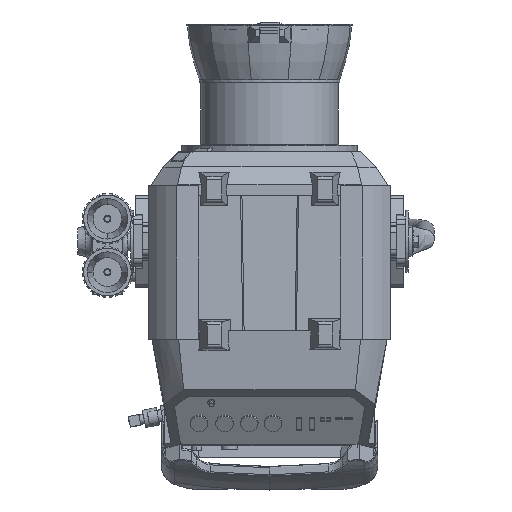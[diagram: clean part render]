
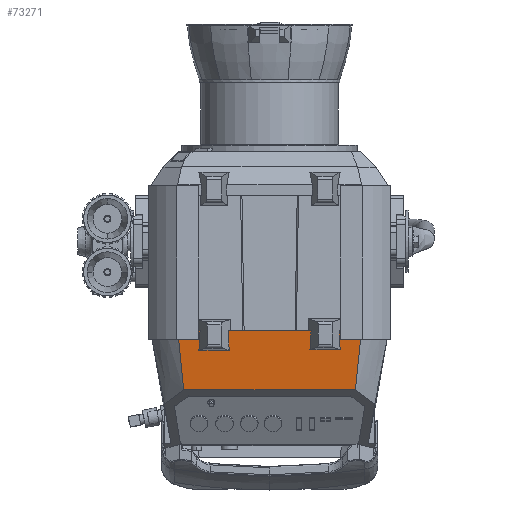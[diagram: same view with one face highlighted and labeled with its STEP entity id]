
A CAD part, front view. The second image highlights one B-rep face of the part: STEP entity #73271.
In plain terms, the highlighted planar face has unit normal (0, -0.994, -0.106).
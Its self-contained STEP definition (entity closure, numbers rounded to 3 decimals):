
#901 = DIRECTION ( 'NONE',  ( -1., 0., 0. ) ) ;
#1032 = EDGE_CURVE ( 'NONE', #47975, #86851, #28076, .T. ) ;
#1175 = LINE ( 'NONE', #34639, #56927 ) ;
#1481 = VERTEX_POINT ( 'NONE', #59729 ) ;
#1892 = ORIENTED_EDGE ( 'NONE', *, *, #50041, .F. ) ;
#1959 = CARTESIAN_POINT ( 'NONE',  ( 100.247, -137.048, -195.215 ) ) ;
#2174 = VECTOR ( 'NONE', #65344, 1000. ) ;
#2266 = LINE ( 'NONE', #72654, #36955 ) ;
#3309 = LINE ( 'NONE', #56030, #77935 ) ;
#3787 = CARTESIAN_POINT ( 'NONE',  ( -80.501, -140.238, -165.171 ) ) ;
#4239 = CARTESIAN_POINT ( 'NONE',  ( 103.261, -140.238, -165.172 ) ) ;
#6103 = ORIENTED_EDGE ( 'NONE', *, *, #72136, .F. ) ;
#8128 = DIRECTION ( 'NONE',  ( 0.06, -0.105, 0.993 ) ) ;
#8320 = DIRECTION ( 'NONE',  ( 1., 0., 0. ) ) ;
#9716 = VECTOR ( 'NONE', #65089, 1000. ) ;
#10154 = CARTESIAN_POINT ( 'NONE',  ( 47.141, -141.248, -155.66 ) ) ;
#11284 = EDGE_CURVE ( 'NONE', #1481, #64808, #53993, .T. ) ;
#13379 = VECTOR ( 'NONE', #53686, 1000. ) ;
#13442 = ORIENTED_EDGE ( 'NONE', *, *, #1032, .T. ) ;
#13594 = VECTOR ( 'NONE', #35698, 1000. ) ;
#13750 = VERTEX_POINT ( 'NONE', #60739 ) ;
#13892 = EDGE_CURVE ( 'NONE', #55362, #53485, #31100, .T. ) ;
#14049 = VECTOR ( 'NONE', #8320, 1000. ) ;
#14650 = EDGE_CURVE ( 'NONE', #29475, #29141, #39277, .T. ) ;
#15102 = CARTESIAN_POINT ( 'NONE',  ( 104.214, -138.984, -176.982 ) ) ;
#15931 = LINE ( 'NONE', #17688, #2174 ) ;
#17034 = VECTOR ( 'NONE', #37124, 1000. ) ;
#17265 = VERTEX_POINT ( 'NONE', #24862 ) ;
#17688 = CARTESIAN_POINT ( 'NONE',  ( 78.952, -141.086, -157.182 ) ) ;
#18040 = CARTESIAN_POINT ( 'NONE',  ( -46.587, -140.283, -164.746 ) ) ;
#19392 = CARTESIAN_POINT ( 'NONE',  ( -80.189, -138.93, -177.492 ) ) ;
#19735 = CARTESIAN_POINT ( 'NONE',  ( 80.501, -141.248, -155.662 ) ) ;
#19779 = VERTEX_POINT ( 'NONE', #85275 ) ;
#21428 = VECTOR ( 'NONE', #76216, 1000. ) ;
#21527 = CARTESIAN_POINT ( 'NONE',  ( 104.214, -140.238, -165.172 ) ) ;
#22001 = AXIS2_PLACEMENT_3D ( 'NONE', #78571, #31523, #71858 ) ;
#22724 = ORIENTED_EDGE ( 'NONE', *, *, #39609, .T. ) ;
#24862 = CARTESIAN_POINT ( 'NONE',  ( 80.501, -140.238, -165.171 ) ) ;
#25859 = VECTOR ( 'NONE', #62212, 1000. ) ;
#26287 = EDGE_CURVE ( 'NONE', #1481, #19779, #27543, .T. ) ;
#27182 = VERTEX_POINT ( 'NONE', #68203 ) ;
#27543 = LINE ( 'NONE', #18040, #9716 ) ;
#28076 = LINE ( 'NONE', #60773, #13379 ) ;
#29141 = VERTEX_POINT ( 'NONE', #38468 ) ;
#29475 = VERTEX_POINT ( 'NONE', #3787 ) ;
#29716 = CARTESIAN_POINT ( 'NONE',  ( -80.501, -141.25, -155.643 ) ) ;
#29786 = LINE ( 'NONE', #21527, #14049 ) ;
#30912 = ORIENTED_EDGE ( 'NONE', *, *, #64849, .T. ) ;
#31100 = LINE ( 'NONE', #15102, #25859 ) ;
#31523 = DIRECTION ( 'NONE',  ( 0., -0.994, -0.106 ) ) ;
#33229 = VECTOR ( 'NONE', #50882, 1000. ) ;
#33806 = LINE ( 'NONE', #19735, #49657 ) ;
#34259 = VERTEX_POINT ( 'NONE', #56255 ) ;
#34639 = CARTESIAN_POINT ( 'NONE',  ( 0., -141.248, -155.66 ) ) ;
#35410 = CARTESIAN_POINT ( 'NONE',  ( -78.189, -142.415, -144.67 ) ) ;
#35698 = DIRECTION ( 'NONE',  ( 0.06, -0.105, 0.993 ) ) ;
#36955 = VECTOR ( 'NONE', #45869, 1000. ) ;
#37124 = DIRECTION ( 'NONE',  ( -0.099, 0.105, -0.99 ) ) ;
#37722 = ORIENTED_EDGE ( 'NONE', *, *, #13892, .T. ) ;
#38468 = CARTESIAN_POINT ( 'NONE',  ( -80.501, -141.248, -155.66 ) ) ;
#39277 = LINE ( 'NONE', #29716, #21428 ) ;
#39609 = EDGE_CURVE ( 'NONE', #53485, #43356, #47239, .T. ) ;
#40417 = ORIENTED_EDGE ( 'NONE', *, *, #46984, .T. ) ;
#41866 = LINE ( 'NONE', #35410, #79737 ) ;
#43356 = VERTEX_POINT ( 'NONE', #10154 ) ;
#44453 = EDGE_CURVE ( 'NONE', #13750, #47975, #66994, .T. ) ;
#45869 = DIRECTION ( 'NONE',  ( -1., 0., 0. ) ) ;
#46766 = CARTESIAN_POINT ( 'NONE',  ( -97.483, -134.122, -222.771 ) ) ;
#46984 = EDGE_CURVE ( 'NONE', #60413, #29141, #51143, .T. ) ;
#47239 = LINE ( 'NONE', #82463, #13594 ) ;
#47975 = VERTEX_POINT ( 'NONE', #46766 ) ;
#49657 = VECTOR ( 'NONE', #52676, 1000. ) ;
#50041 = EDGE_CURVE ( 'NONE', #17265, #84466, #29786, .T. ) ;
#50608 = EDGE_LOOP ( 'NONE', ( #6103, #72303, #72598, #37722, #22724, #30912, #62001, #82470, #79766, #40417, #70616, #53204, #68096, #13442, #66434, #1892 ) ) ;
#50882 = DIRECTION ( 'NONE',  ( 0.099, 0.105, -0.99 ) ) ;
#51143 = LINE ( 'NONE', #85433, #53214 ) ;
#52237 = DIRECTION ( 'NONE',  ( -1., 0., 0. ) ) ;
#52676 = DIRECTION ( 'NONE',  ( 0., 0.106, -0.994 ) ) ;
#53204 = ORIENTED_EDGE ( 'NONE', *, *, #65020, .F. ) ;
#53214 = VECTOR ( 'NONE', #52237, 1000. ) ;
#53485 = VERTEX_POINT ( 'NONE', #74563 ) ;
#53686 = DIRECTION ( 'NONE',  ( 1., 0., 0. ) ) ;
#53993 = LINE ( 'NONE', #57203, #64589 ) ;
#55362 = VERTEX_POINT ( 'NONE', #62604 ) ;
#56030 = CARTESIAN_POINT ( 'NONE',  ( 104.215, -140.239, -165.167 ) ) ;
#56255 = CARTESIAN_POINT ( 'NONE',  ( 80.501, -141.248, -155.66 ) ) ;
#56579 = PLANE ( 'NONE',  #22001 ) ;
#56927 = VECTOR ( 'NONE', #901, 1000. ) ;
#57203 = CARTESIAN_POINT ( 'NONE',  ( 104.214, -138.93, -177.492 ) ) ;
#59729 = CARTESIAN_POINT ( 'NONE',  ( -45.811, -138.93, -177.492 ) ) ;
#60413 = VERTEX_POINT ( 'NONE', #84821 ) ;
#60739 = CARTESIAN_POINT ( 'NONE',  ( -103.261, -140.238, -165.172 ) ) ;
#60773 = CARTESIAN_POINT ( 'NONE',  ( 104.214, -134.122, -222.771 ) ) ;
#62001 = ORIENTED_EDGE ( 'NONE', *, *, #26287, .F. ) ;
#62212 = DIRECTION ( 'NONE',  ( -1., 0., 0. ) ) ;
#62604 = CARTESIAN_POINT ( 'NONE',  ( 80.158, -138.984, -176.982 ) ) ;
#63369 = CARTESIAN_POINT ( 'NONE',  ( 97.483, -134.122, -222.771 ) ) ;
#64589 = VECTOR ( 'NONE', #78055, 1000. ) ;
#64808 = VERTEX_POINT ( 'NONE', #19392 ) ;
#64849 = EDGE_CURVE ( 'NONE', #43356, #19779, #2266, .T. ) ;
#65020 = EDGE_CURVE ( 'NONE', #13750, #29475, #3309, .T. ) ;
#65089 = DIRECTION ( 'NONE',  ( -0.06, -0.105, 0.993 ) ) ;
#65344 = DIRECTION ( 'NONE',  ( -0.06, -0.105, 0.993 ) ) ;
#66434 = ORIENTED_EDGE ( 'NONE', *, *, #75982, .F. ) ;
#66501 = LINE ( 'NONE', #1959, #17034 ) ;
#66994 = LINE ( 'NONE', #84583, #33229 ) ;
#68096 = ORIENTED_EDGE ( 'NONE', *, *, #44453, .T. ) ;
#68203 = CARTESIAN_POINT ( 'NONE',  ( 78.859, -141.248, -155.66 ) ) ;
#70616 = ORIENTED_EDGE ( 'NONE', *, *, #14650, .F. ) ;
#71858 = DIRECTION ( 'NONE',  ( -1., 0., 0. ) ) ;
#72136 = EDGE_CURVE ( 'NONE', #34259, #17265, #33806, .T. ) ;
#72303 = ORIENTED_EDGE ( 'NONE', *, *, #83175, .T. ) ;
#72598 = ORIENTED_EDGE ( 'NONE', *, *, #76515, .F. ) ;
#72654 = CARTESIAN_POINT ( 'NONE',  ( 0., -141.248, -155.66 ) ) ;
#73271 = ADVANCED_FACE ( 'NONE', ( #81831 ), #56579, .T. ) ;
#74563 = CARTESIAN_POINT ( 'NONE',  ( 45.842, -138.984, -176.982 ) ) ;
#75982 = EDGE_CURVE ( 'NONE', #84466, #86851, #66501, .T. ) ;
#76216 = DIRECTION ( 'NONE',  ( 0., -0.106, 0.994 ) ) ;
#76515 = EDGE_CURVE ( 'NONE', #55362, #27182, #15931, .T. ) ;
#77935 = VECTOR ( 'NONE', #82757, 1000. ) ;
#78055 = DIRECTION ( 'NONE',  ( -1., 0., 0. ) ) ;
#78571 = CARTESIAN_POINT ( 'NONE',  ( 104.214, -141.248, -155.66 ) ) ;
#79737 = VECTOR ( 'NONE', #8128, 1000. ) ;
#79766 = ORIENTED_EDGE ( 'NONE', *, *, #83752, .T. ) ;
#81831 = FACE_OUTER_BOUND ( 'NONE', #50608, .T. ) ;
#82463 = CARTESIAN_POINT ( 'NONE',  ( 47.35, -141.612, -152.234 ) ) ;
#82470 = ORIENTED_EDGE ( 'NONE', *, *, #11284, .T. ) ;
#82757 = DIRECTION ( 'NONE',  ( 1., 0., 0. ) ) ;
#83175 = EDGE_CURVE ( 'NONE', #34259, #27182, #1175, .T. ) ;
#83752 = EDGE_CURVE ( 'NONE', #64808, #60413, #41866, .T. ) ;
#84466 = VERTEX_POINT ( 'NONE', #4239 ) ;
#84583 = CARTESIAN_POINT ( 'NONE',  ( -100.247, -137.048, -195.215 ) ) ;
#84821 = CARTESIAN_POINT ( 'NONE',  ( -78.859, -141.248, -155.66 ) ) ;
#85275 = CARTESIAN_POINT ( 'NONE',  ( -47.141, -141.248, -155.66 ) ) ;
#85433 = CARTESIAN_POINT ( 'NONE',  ( 0., -141.248, -155.66 ) ) ;
#86851 = VERTEX_POINT ( 'NONE', #63369 ) ;
